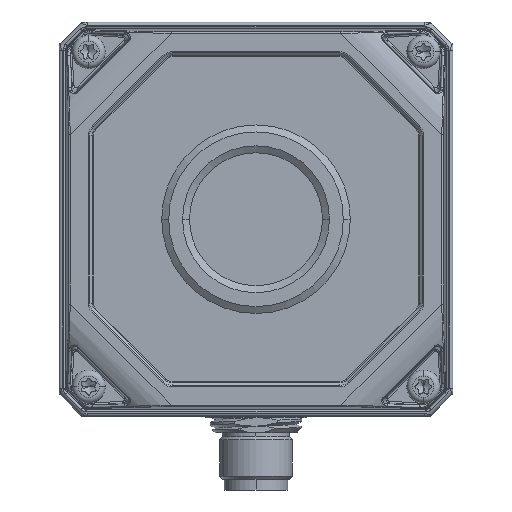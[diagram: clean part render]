
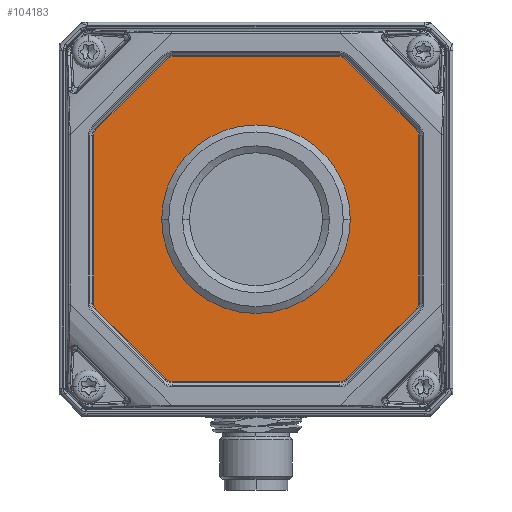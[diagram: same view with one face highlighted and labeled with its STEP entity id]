
A CAD part, left-side view. The second image highlights one B-rep face of the part: STEP entity #104183.
In plain terms, the highlighted planar face has unit normal (-1, 0, 0).
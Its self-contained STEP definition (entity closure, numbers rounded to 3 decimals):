
#86196=CARTESIAN_POINT('',(-24.7,-25.5,13.879));
#86197=DIRECTION('',(1.,0.,0.));
#86198=DIRECTION('',(0.,-0.707,0.707));
#86199=AXIS2_PLACEMENT_3D('',#86196,#86197,#86198);
#86201=DIRECTION('',(0.,0.,-1.));
#86202=VECTOR('',#86201,27.757);
#86203=CARTESIAN_POINT('',(-24.7,-26.891,13.879));
#86204=LINE('',#86203,#86202);
#86205=CARTESIAN_POINT('',(-24.7,-25.5,-13.879));
#86206=DIRECTION('',(1.,0.,0.));
#86207=DIRECTION('',(0.,-1.,0.));
#86208=AXIS2_PLACEMENT_3D('',#86205,#86206,#86207);
#86210=DIRECTION('',(0.,0.707,-0.707));
#86211=VECTOR('',#86210,16.435);
#86212=CARTESIAN_POINT('',(-24.7,-26.484,-14.863));
#86213=LINE('',#86212,#86211);
#86214=CARTESIAN_POINT('',(-24.7,-13.879,-25.5));
#86215=DIRECTION('',(1.,0.,0.));
#86216=DIRECTION('',(0.,-0.707,-0.707));
#86217=AXIS2_PLACEMENT_3D('',#86214,#86215,#86216);
#86219=DIRECTION('',(0.,1.,0.));
#86220=VECTOR('',#86219,27.757);
#86221=CARTESIAN_POINT('',(-24.7,-13.879,-26.891));
#86222=LINE('',#86221,#86220);
#86223=CARTESIAN_POINT('',(-24.7,13.879,-25.5));
#86224=DIRECTION('',(1.,0.,0.));
#86225=DIRECTION('',(0.,0.,-1.));
#86226=AXIS2_PLACEMENT_3D('',#86223,#86224,#86225);
#86228=DIRECTION('',(0.,0.707,0.707));
#86229=VECTOR('',#86228,16.435);
#86230=CARTESIAN_POINT('',(-24.7,14.863,-26.484));
#86231=LINE('',#86230,#86229);
#86232=CARTESIAN_POINT('',(-24.7,25.5,-13.879));
#86233=DIRECTION('',(1.,0.,0.));
#86234=DIRECTION('',(0.,0.707,-0.707));
#86235=AXIS2_PLACEMENT_3D('',#86232,#86233,#86234);
#86237=DIRECTION('',(0.,0.,1.));
#86238=VECTOR('',#86237,27.757);
#86239=CARTESIAN_POINT('',(-24.7,26.891,-13.879));
#86240=LINE('',#86239,#86238);
#86241=CARTESIAN_POINT('',(-24.7,25.5,13.879));
#86242=DIRECTION('',(1.,0.,0.));
#86243=DIRECTION('',(0.,1.,0.));
#86244=AXIS2_PLACEMENT_3D('',#86241,#86242,#86243);
#86246=DIRECTION('',(0.,-0.707,0.707));
#86247=VECTOR('',#86246,16.435);
#86248=CARTESIAN_POINT('',(-24.7,26.484,14.863));
#86249=LINE('',#86248,#86247);
#86250=CARTESIAN_POINT('',(-24.7,13.879,25.5));
#86251=DIRECTION('',(1.,0.,0.));
#86252=DIRECTION('',(0.,0.707,0.707));
#86253=AXIS2_PLACEMENT_3D('',#86250,#86251,#86252);
#86255=DIRECTION('',(0.,-1.,0.));
#86256=VECTOR('',#86255,27.757);
#86257=CARTESIAN_POINT('',(-24.7,13.879,26.891));
#86258=LINE('',#86257,#86256);
#86259=CARTESIAN_POINT('',(-24.7,-13.879,25.5));
#86260=DIRECTION('',(1.,0.,0.));
#86261=DIRECTION('',(0.,0.,1.));
#86262=AXIS2_PLACEMENT_3D('',#86259,#86260,#86261);
#86264=DIRECTION('',(0.,-0.707,-0.707));
#86265=VECTOR('',#86264,16.435);
#86266=CARTESIAN_POINT('',(-24.7,-14.863,26.484));
#86267=LINE('',#86266,#86265);
#86268=CARTESIAN_POINT('',(-24.7,0.,0.));
#86269=DIRECTION('',(1.,0.,0.));
#86270=DIRECTION('',(0.,-1.,0.));
#86271=AXIS2_PLACEMENT_3D('',#86268,#86269,#86270);
#86273=CARTESIAN_POINT('',(-24.7,0.,0.));
#86274=DIRECTION('',(1.,0.,0.));
#86275=DIRECTION('',(0.,1.,0.));
#86276=AXIS2_PLACEMENT_3D('',#86273,#86274,#86275);
#88362=CARTESIAN_POINT('',(-24.7,-26.484,14.863));
#88363=CARTESIAN_POINT('',(-24.7,-26.891,13.879));
#88364=VERTEX_POINT('',#88362);
#88365=VERTEX_POINT('',#88363);
#88370=CARTESIAN_POINT('',(-24.7,-26.891,-13.879));
#88371=VERTEX_POINT('',#88370);
#88374=CARTESIAN_POINT('',(-24.7,-26.484,-14.863));
#88375=VERTEX_POINT('',#88374);
#88378=CARTESIAN_POINT('',(-24.7,-14.863,-26.484));
#88379=VERTEX_POINT('',#88378);
#88382=CARTESIAN_POINT('',(-24.7,-13.879,-26.891));
#88383=VERTEX_POINT('',#88382);
#88386=CARTESIAN_POINT('',(-24.7,13.879,-26.891));
#88387=VERTEX_POINT('',#88386);
#88390=CARTESIAN_POINT('',(-24.7,14.863,-26.484));
#88391=VERTEX_POINT('',#88390);
#88394=CARTESIAN_POINT('',(-24.7,26.484,-14.863));
#88395=VERTEX_POINT('',#88394);
#88398=CARTESIAN_POINT('',(-24.7,26.891,-13.879));
#88399=VERTEX_POINT('',#88398);
#88402=CARTESIAN_POINT('',(-24.7,26.891,13.879));
#88403=VERTEX_POINT('',#88402);
#88406=CARTESIAN_POINT('',(-24.7,26.484,14.863));
#88407=VERTEX_POINT('',#88406);
#88410=CARTESIAN_POINT('',(-24.7,14.863,26.484));
#88411=VERTEX_POINT('',#88410);
#88414=CARTESIAN_POINT('',(-24.7,13.879,26.891));
#88415=VERTEX_POINT('',#88414);
#88418=CARTESIAN_POINT('',(-24.7,-13.879,26.891));
#88419=VERTEX_POINT('',#88418);
#88422=CARTESIAN_POINT('',(-24.7,-14.863,26.484));
#88423=VERTEX_POINT('',#88422);
#89497=CARTESIAN_POINT('',(-24.7,-14.199,0.));
#89498=CARTESIAN_POINT('',(-24.7,14.199,0.));
#89499=VERTEX_POINT('',#89497);
#89500=VERTEX_POINT('',#89498);
#104139=CARTESIAN_POINT('',(-24.7,0.,0.));
#104140=DIRECTION('',(-1.,0.,0.));
#104141=DIRECTION('',(0.,-1.,0.));
#104142=AXIS2_PLACEMENT_3D('',#104139,#104140,#104141);
#104143=PLANE('',#104142);
#104145=ORIENTED_EDGE('',*,*,#104144,.T.);
#104147=ORIENTED_EDGE('',*,*,#104146,.T.);
#104149=ORIENTED_EDGE('',*,*,#104148,.T.);
#104151=ORIENTED_EDGE('',*,*,#104150,.T.);
#104153=ORIENTED_EDGE('',*,*,#104152,.T.);
#104155=ORIENTED_EDGE('',*,*,#104154,.T.);
#104157=ORIENTED_EDGE('',*,*,#104156,.T.);
#104159=ORIENTED_EDGE('',*,*,#104158,.T.);
#104161=ORIENTED_EDGE('',*,*,#104160,.T.);
#104163=ORIENTED_EDGE('',*,*,#104162,.T.);
#104165=ORIENTED_EDGE('',*,*,#104164,.T.);
#104167=ORIENTED_EDGE('',*,*,#104166,.T.);
#104169=ORIENTED_EDGE('',*,*,#104168,.T.);
#104171=ORIENTED_EDGE('',*,*,#104170,.T.);
#104173=ORIENTED_EDGE('',*,*,#104172,.T.);
#104175=ORIENTED_EDGE('',*,*,#104174,.T.);
#104176=EDGE_LOOP('',(#104145,#104147,#104149,#104151,#104153,#104155,#104157,
#104159,#104161,#104163,#104165,#104167,#104169,#104171,#104173,#104175));
#104177=FACE_OUTER_BOUND('',#104176,.F.);
#104178=ORIENTED_EDGE('',*,*,#104129,.F.);
#104180=ORIENTED_EDGE('',*,*,#104179,.F.);
#104181=EDGE_LOOP('',(#104178,#104180));
#104182=FACE_BOUND('',#104181,.F.);
#104183=ADVANCED_FACE('',(#104177,#104182),#104143,.T.);
#86200=CIRCLE('',#86199,1.391);
#86209=CIRCLE('',#86208,1.391);
#86218=CIRCLE('',#86217,1.391);
#86227=CIRCLE('',#86226,1.391);
#86236=CIRCLE('',#86235,1.391);
#86245=CIRCLE('',#86244,1.391);
#86254=CIRCLE('',#86253,1.391);
#86263=CIRCLE('',#86262,1.391);
#86272=CIRCLE('',#86271,14.199);
#86277=CIRCLE('',#86276,14.199);
#104129=EDGE_CURVE('',#89499,#89500,#86272,.T.);
#104144=EDGE_CURVE('',#88364,#88365,#86200,.T.);
#104146=EDGE_CURVE('',#88365,#88371,#86204,.T.);
#104148=EDGE_CURVE('',#88371,#88375,#86209,.T.);
#104150=EDGE_CURVE('',#88375,#88379,#86213,.T.);
#104152=EDGE_CURVE('',#88379,#88383,#86218,.T.);
#104154=EDGE_CURVE('',#88383,#88387,#86222,.T.);
#104156=EDGE_CURVE('',#88387,#88391,#86227,.T.);
#104158=EDGE_CURVE('',#88391,#88395,#86231,.T.);
#104160=EDGE_CURVE('',#88395,#88399,#86236,.T.);
#104162=EDGE_CURVE('',#88399,#88403,#86240,.T.);
#104164=EDGE_CURVE('',#88403,#88407,#86245,.T.);
#104166=EDGE_CURVE('',#88407,#88411,#86249,.T.);
#104168=EDGE_CURVE('',#88411,#88415,#86254,.T.);
#104170=EDGE_CURVE('',#88415,#88419,#86258,.T.);
#104172=EDGE_CURVE('',#88419,#88423,#86263,.T.);
#104174=EDGE_CURVE('',#88423,#88364,#86267,.T.);
#104179=EDGE_CURVE('',#89500,#89499,#86277,.T.);
